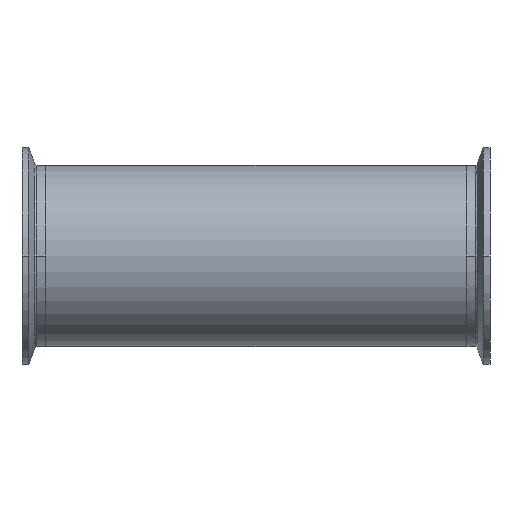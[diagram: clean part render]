
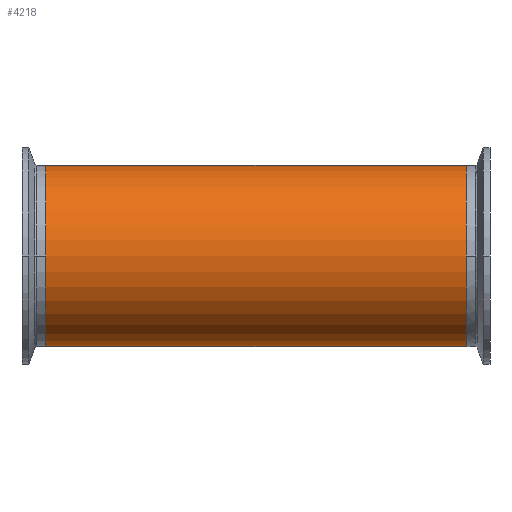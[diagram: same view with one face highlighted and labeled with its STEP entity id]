
A CAD part, front view. The second image highlights one B-rep face of the part: STEP entity #4218.
In plain terms, the highlighted cylindrical face has radius 38.1 mm (diameter 76.2 mm), a partial arc.
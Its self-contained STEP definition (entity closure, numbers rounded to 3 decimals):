
#62 = EDGE_CURVE ( 'NONE', #3262, #167, #1543, .T. ) ;
#166 = CARTESIAN_POINT ( 'NONE',  ( -88.4, 0., 38.1 ) ) ;
#167 = VERTEX_POINT ( 'NONE', #1953 ) ;
#242 = DIRECTION ( 'NONE',  ( 0., 0., 1. ) ) ;
#265 = AXIS2_PLACEMENT_3D ( 'NONE', #2035, #2375, #1091 ) ;
#548 = DIRECTION ( 'NONE',  ( -1., 0., 0. ) ) ;
#630 = CARTESIAN_POINT ( 'NONE',  ( 88.4, 0., -38.1 ) ) ;
#675 = AXIS2_PLACEMENT_3D ( 'NONE', #1187, #548, #242 ) ;
#745 = ORIENTED_EDGE ( 'NONE', *, *, #1361, .T. ) ;
#990 = CYLINDRICAL_SURFACE ( 'NONE', #675, 38.1 ) ;
#1091 = DIRECTION ( 'NONE',  ( 0., 0., 1. ) ) ;
#1092 = FACE_OUTER_BOUND ( 'NONE', #3067, .T. ) ;
#1187 = CARTESIAN_POINT ( 'NONE',  ( 196.163, 0., 0. ) ) ;
#1269 = EDGE_CURVE ( 'NONE', #3647, #167, #2440, .T. ) ;
#1361 = EDGE_CURVE ( 'NONE', #3647, #3392, #2337, .T. ) ;
#1434 = VECTOR ( 'NONE', #3760, 1000. ) ;
#1467 = CARTESIAN_POINT ( 'NONE',  ( 196.163, 0., 38.1 ) ) ;
#1488 = CARTESIAN_POINT ( 'NONE',  ( 88.4, 0., 38.1 ) ) ;
#1543 = CIRCLE ( 'NONE', #265, 38.1 ) ;
#1635 = ORIENTED_EDGE ( 'NONE', *, *, #1269, .F. ) ;
#1648 = VECTOR ( 'NONE', #3416, 1000. ) ;
#1953 = CARTESIAN_POINT ( 'NONE',  ( -88.4, 0., -38.1 ) ) ;
#2035 = CARTESIAN_POINT ( 'NONE',  ( -88.4, 0., 0. ) ) ;
#2231 = LINE ( 'NONE', #1467, #1434 ) ;
#2337 = CIRCLE ( 'NONE', #3227, 38.1 ) ;
#2375 = DIRECTION ( 'NONE',  ( 1., 0., 0. ) ) ;
#2427 = ORIENTED_EDGE ( 'NONE', *, *, #62, .T. ) ;
#2440 = LINE ( 'NONE', #3485, #1648 ) ;
#3067 = EDGE_LOOP ( 'NONE', ( #1635, #745, #3307, #2427 ) ) ;
#3157 = CARTESIAN_POINT ( 'NONE',  ( 88.4, 0., 0. ) ) ;
#3227 = AXIS2_PLACEMENT_3D ( 'NONE', #3157, #3498, #4227 ) ;
#3262 = VERTEX_POINT ( 'NONE', #166 ) ;
#3307 = ORIENTED_EDGE ( 'NONE', *, *, #3376, .T. ) ;
#3376 = EDGE_CURVE ( 'NONE', #3392, #3262, #2231, .T. ) ;
#3392 = VERTEX_POINT ( 'NONE', #1488 ) ;
#3416 = DIRECTION ( 'NONE',  ( -1., 0., 0. ) ) ;
#3485 = CARTESIAN_POINT ( 'NONE',  ( 196.163, 0., -38.1 ) ) ;
#3498 = DIRECTION ( 'NONE',  ( -1., 0., 0. ) ) ;
#3647 = VERTEX_POINT ( 'NONE', #630 ) ;
#3760 = DIRECTION ( 'NONE',  ( -1., 0., 0. ) ) ;
#4218 = ADVANCED_FACE ( 'NONE', ( #1092 ), #990, .T. ) ;
#4227 = DIRECTION ( 'NONE',  ( 0., 0., 1. ) ) ;
